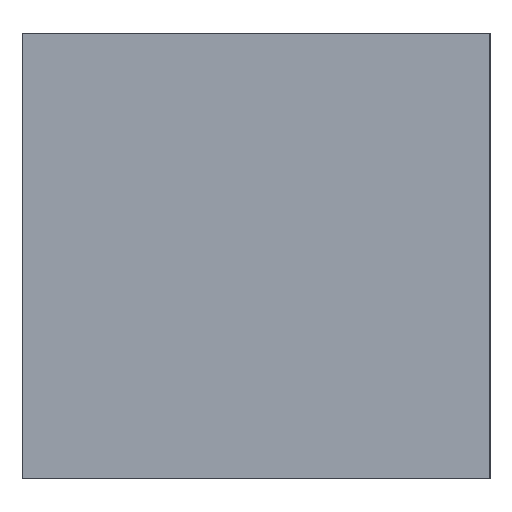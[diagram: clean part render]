
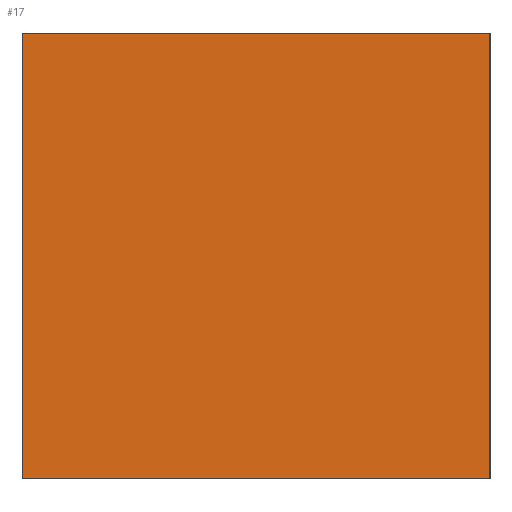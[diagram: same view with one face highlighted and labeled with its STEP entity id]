
A CAD part, left-side view. The second image highlights one B-rep face of the part: STEP entity #17.
In plain terms, the highlighted planar face has unit normal (-1, 0, 0).
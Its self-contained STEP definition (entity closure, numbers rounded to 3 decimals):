
#17 = ADVANCED_FACE('',(#18),#32,.F.);
#18 = FACE_BOUND('',#19,.F.);
#19 = EDGE_LOOP('',(#20,#55,#83,#111));
#20 = ORIENTED_EDGE('',*,*,#21,.F.);
#21 = EDGE_CURVE('',#22,#24,#26,.T.);
#22 = VERTEX_POINT('',#23);
#23 = CARTESIAN_POINT('',(-62.,3.,278.));
#24 = VERTEX_POINT('',#25);
#25 = CARTESIAN_POINT('',(-62.,3.,358.));
#26 = SURFACE_CURVE('',#27,(#31,#43),.PCURVE_S1.);
#27 = LINE('',#28,#29);
#28 = CARTESIAN_POINT('',(-62.,3.,278.));
#29 = VECTOR('',#30,1.);
#30 = DIRECTION('',(0.,0.,1.));
#31 = PCURVE('',#32,#37);
#32 = PLANE('',#33);
#33 = AXIS2_PLACEMENT_3D('',#34,#35,#36);
#34 = CARTESIAN_POINT('',(-62.,3.,278.));
#35 = DIRECTION('',(1.,0.,0.));
#36 = DIRECTION('',(0.,0.,1.));
#37 = DEFINITIONAL_REPRESENTATION('',(#38),#42);
#38 = LINE('',#39,#40);
#39 = CARTESIAN_POINT('',(0.,0.));
#40 = VECTOR('',#41,1.);
#41 = DIRECTION('',(1.,0.));
#42 = ( GEOMETRIC_REPRESENTATION_CONTEXT(2) 
PARAMETRIC_REPRESENTATION_CONTEXT() REPRESENTATION_CONTEXT('2D SPACE',''
  ) );
#43 = PCURVE('',#44,#49);
#44 = PLANE('',#45);
#45 = AXIS2_PLACEMENT_3D('',#46,#47,#48);
#46 = CARTESIAN_POINT('',(-62.,3.,278.));
#47 = DIRECTION('',(0.,1.,0.));
#48 = DIRECTION('',(0.,0.,1.));
#49 = DEFINITIONAL_REPRESENTATION('',(#50),#54);
#50 = LINE('',#51,#52);
#51 = CARTESIAN_POINT('',(0.,0.));
#52 = VECTOR('',#53,1.);
#53 = DIRECTION('',(1.,0.));
#54 = ( GEOMETRIC_REPRESENTATION_CONTEXT(2) 
PARAMETRIC_REPRESENTATION_CONTEXT() REPRESENTATION_CONTEXT('2D SPACE',''
  ) );
#55 = ORIENTED_EDGE('',*,*,#56,.T.);
#56 = EDGE_CURVE('',#22,#57,#59,.T.);
#57 = VERTEX_POINT('',#58);
#58 = CARTESIAN_POINT('',(-62.,87.,278.));
#59 = SURFACE_CURVE('',#60,(#64,#71),.PCURVE_S1.);
#60 = LINE('',#61,#62);
#61 = CARTESIAN_POINT('',(-62.,3.,278.));
#62 = VECTOR('',#63,1.);
#63 = DIRECTION('',(0.,1.,0.));
#64 = PCURVE('',#32,#65);
#65 = DEFINITIONAL_REPRESENTATION('',(#66),#70);
#66 = LINE('',#67,#68);
#67 = CARTESIAN_POINT('',(0.,0.));
#68 = VECTOR('',#69,1.);
#69 = DIRECTION('',(0.,-1.));
#70 = ( GEOMETRIC_REPRESENTATION_CONTEXT(2) 
PARAMETRIC_REPRESENTATION_CONTEXT() REPRESENTATION_CONTEXT('2D SPACE',''
  ) );
#71 = PCURVE('',#72,#77);
#72 = PLANE('',#73);
#73 = AXIS2_PLACEMENT_3D('',#74,#75,#76);
#74 = CARTESIAN_POINT('',(-62.,3.,278.));
#75 = DIRECTION('',(0.,0.,1.));
#76 = DIRECTION('',(1.,0.,0.));
#77 = DEFINITIONAL_REPRESENTATION('',(#78),#82);
#78 = LINE('',#79,#80);
#79 = CARTESIAN_POINT('',(0.,0.));
#80 = VECTOR('',#81,1.);
#81 = DIRECTION('',(0.,1.));
#82 = ( GEOMETRIC_REPRESENTATION_CONTEXT(2) 
PARAMETRIC_REPRESENTATION_CONTEXT() REPRESENTATION_CONTEXT('2D SPACE',''
  ) );
#83 = ORIENTED_EDGE('',*,*,#84,.T.);
#84 = EDGE_CURVE('',#57,#85,#87,.T.);
#85 = VERTEX_POINT('',#86);
#86 = CARTESIAN_POINT('',(-62.,87.,358.));
#87 = SURFACE_CURVE('',#88,(#92,#99),.PCURVE_S1.);
#88 = LINE('',#89,#90);
#89 = CARTESIAN_POINT('',(-62.,87.,278.));
#90 = VECTOR('',#91,1.);
#91 = DIRECTION('',(0.,0.,1.));
#92 = PCURVE('',#32,#93);
#93 = DEFINITIONAL_REPRESENTATION('',(#94),#98);
#94 = LINE('',#95,#96);
#95 = CARTESIAN_POINT('',(0.,-84.));
#96 = VECTOR('',#97,1.);
#97 = DIRECTION('',(1.,0.));
#98 = ( GEOMETRIC_REPRESENTATION_CONTEXT(2) 
PARAMETRIC_REPRESENTATION_CONTEXT() REPRESENTATION_CONTEXT('2D SPACE',''
  ) );
#99 = PCURVE('',#100,#105);
#100 = PLANE('',#101);
#101 = AXIS2_PLACEMENT_3D('',#102,#103,#104);
#102 = CARTESIAN_POINT('',(-62.,87.,278.));
#103 = DIRECTION('',(0.,1.,0.));
#104 = DIRECTION('',(0.,0.,1.));
#105 = DEFINITIONAL_REPRESENTATION('',(#106),#110);
#106 = LINE('',#107,#108);
#107 = CARTESIAN_POINT('',(0.,0.));
#108 = VECTOR('',#109,1.);
#109 = DIRECTION('',(1.,0.));
#110 = ( GEOMETRIC_REPRESENTATION_CONTEXT(2) 
PARAMETRIC_REPRESENTATION_CONTEXT() REPRESENTATION_CONTEXT('2D SPACE',''
  ) );
#111 = ORIENTED_EDGE('',*,*,#112,.F.);
#112 = EDGE_CURVE('',#24,#85,#113,.T.);
#113 = SURFACE_CURVE('',#114,(#118,#125),.PCURVE_S1.);
#114 = LINE('',#115,#116);
#115 = CARTESIAN_POINT('',(-62.,3.,358.));
#116 = VECTOR('',#117,1.);
#117 = DIRECTION('',(0.,1.,0.));
#118 = PCURVE('',#32,#119);
#119 = DEFINITIONAL_REPRESENTATION('',(#120),#124);
#120 = LINE('',#121,#122);
#121 = CARTESIAN_POINT('',(80.,0.));
#122 = VECTOR('',#123,1.);
#123 = DIRECTION('',(0.,-1.));
#124 = ( GEOMETRIC_REPRESENTATION_CONTEXT(2) 
PARAMETRIC_REPRESENTATION_CONTEXT() REPRESENTATION_CONTEXT('2D SPACE',''
  ) );
#125 = PCURVE('',#126,#131);
#126 = PLANE('',#127);
#127 = AXIS2_PLACEMENT_3D('',#128,#129,#130);
#128 = CARTESIAN_POINT('',(-62.,3.,358.));
#129 = DIRECTION('',(0.,0.,1.));
#130 = DIRECTION('',(1.,0.,0.));
#131 = DEFINITIONAL_REPRESENTATION('',(#132),#136);
#132 = LINE('',#133,#134);
#133 = CARTESIAN_POINT('',(0.,0.));
#134 = VECTOR('',#135,1.);
#135 = DIRECTION('',(0.,1.));
#136 = ( GEOMETRIC_REPRESENTATION_CONTEXT(2) 
PARAMETRIC_REPRESENTATION_CONTEXT() REPRESENTATION_CONTEXT('2D SPACE',''
  ) );
